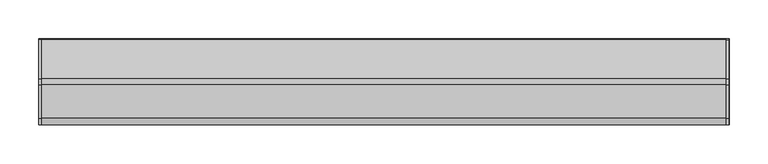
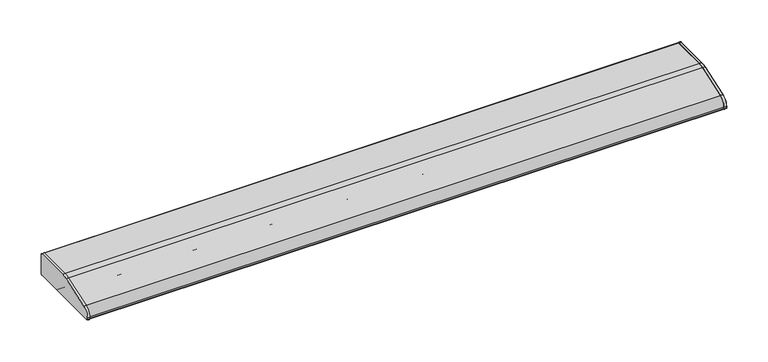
"""IFC4 building model written with IfcOpenShell, lengths in millimetres: light fixture geometry, HermanMiller_SupplementalProducts_G6136_UtilityTaskLight : AO Etho Canvas 42W."""

from ifc_helpers import new_model, si_unit, point, frame, frame_2d, origin, place, context, project, spatial, polyline, circle_curve, trimmed, segment, composite_curve, outline, extrude, source, transform, mapped, element, save


def light_fixture_601a4b46(model_context):
    return source(origin(), model_context, "Body", "SweptSolid", [
        extrude(outline(composite_curve([segment(polyline([(53.975, 1314.45), (-53.975, 1314.45)]), True, "CONTINUOUS"), segment(trimmed(circle_curve(frame_2d((-53.975, 1316.0375)), 1.5875), [point((-53.975, 1314.45))], [point((-55.5625, 1316.0375))], False, "CARTESIAN"), True, "CONTINUOUS"), segment(polyline([(-55.5625, 1316.0375), (-55.5625, 1318.0785714)]), True, "CONTINUOUS"), segment(trimmed(circle_curve(frame_2d((-42.8625, 1318.0785714)), 12.7), [point((-55.5625, 1318.0785714))], [point((-46.9814189, 1330.0920849))], False, "CARTESIAN"), True, "CONTINUOUS"), segment(polyline([(-46.9814189, 1330.0920849), (-4.0045045, 1344.827027)]), True, "CONTINUOUS"), segment(trimmed(circle_curve(frame_2d((4.2333333, 1320.8)), 25.4), [point((-4.0045045, 1344.827027))], [point((4.2333333, 1346.2))], False, "CARTESIAN"), True, "CONTINUOUS"), segment(polyline([(4.2333333, 1346.2), (53.975, 1346.2)]), True, "CONTINUOUS"), segment(trimmed(circle_curve(frame_2d((53.975, 1344.6125)), 1.5875), [point((53.975, 1346.2))], [point((55.5625, 1344.6125))], False, "CARTESIAN"), True, "CONTINUOUS"), segment(polyline([(55.5625, 1344.6125), (55.5625, 1316.0375)]), True, "CONTINUOUS"), segment(trimmed(circle_curve(frame_2d((53.975, 1316.0375)), 1.5875), [point((55.5625, 1316.0375))], [point((53.975, 1314.45))], False, "CARTESIAN"), True, "CONTINUOUS")], self_intersect=False)), frame((441.833, 0.0, 0.0), z_axis=(1.0, 0.0, 0.0), x_axis=(0.0, 1.0, 0.0)), (0.0, 0.0, 1.0), 3.175),
        extrude(outline(composite_curve([segment(trimmed(circle_curve(frame_2d((53.975, 1344.6125)), 1.5875), [point((53.975, 1346.2))], [point((55.5625, 1344.6125))], False, "CARTESIAN"), True, "CONTINUOUS"), segment(polyline([(55.5625, 1344.6125), (55.5625, 1316.0375)]), True, "CONTINUOUS"), segment(trimmed(circle_curve(frame_2d((53.975, 1316.0375)), 1.5875), [point((55.5625, 1316.0375))], [point((53.975, 1314.45))], False, "CARTESIAN"), True, "CONTINUOUS"), segment(polyline([(53.975, 1314.45), (-53.975, 1314.45)]), True, "CONTINUOUS"), segment(trimmed(circle_curve(frame_2d((-53.975, 1316.0375)), 1.5875), [point((-53.975, 1314.45))], [point((-55.5625, 1316.0375))], False, "CARTESIAN"), True, "CONTINUOUS"), segment(polyline([(-55.5625, 1316.0375), (-55.5625, 1318.0785714)]), True, "CONTINUOUS"), segment(trimmed(circle_curve(frame_2d((-42.8625, 1318.0785714)), 12.7), [point((-55.5625, 1318.0785714))], [point((-46.9814189, 1330.0920849))], False, "CARTESIAN"), True, "CONTINUOUS"), segment(polyline([(-46.9814189, 1330.0920849), (-4.0045045, 1344.827027)]), True, "CONTINUOUS"), segment(trimmed(circle_curve(frame_2d((4.2333333, 1320.8)), 25.4), [point((-4.0045045, 1344.827027))], [point((4.2333333, 1346.2))], False, "CARTESIAN"), True, "CONTINUOUS"), segment(polyline([(4.2333333, 1346.2), (53.975, 1346.2)]), True, "CONTINUOUS")], self_intersect=False)), frame((-445.008, 0.0, 0.0), z_axis=(1.0, 0.0, 0.0), x_axis=(0.0, 1.0, 0.0)), (0.0, 0.0, 1.0), 3.175),
        extrude(outline(composite_curve([segment(polyline([(55.5625, 1344.6125), (55.5625, 1316.0375)]), True, "CONTINUOUS"), segment(trimmed(circle_curve(frame_2d((53.975, 1316.0375)), 1.5875), [point((55.5625, 1316.0375))], [point((53.975, 1314.45))], False, "CARTESIAN"), True, "CONTINUOUS"), segment(polyline([(53.975, 1314.45), (19.05, 1314.45)]), True, "CONTINUOUS"), segment(trimmed(circle_curve(frame_2d((19.05, 1316.0375)), 1.5875), [point((19.05, 1314.45))], [point((17.4625, 1316.0375))], False, "CARTESIAN"), True, "CONTINUOUS"), segment(polyline([(17.4625, 1316.0375), (17.4625, 1344.6125), (4.4979167, 1344.6125)]), True, "CONTINUOUS"), segment(trimmed(circle_curve(frame_2d((4.4979167, 1319.2125)), 25.4), [point((4.4979167, 1344.6125))], [point((-3.7399212, 1343.239527))], True, "CARTESIAN"), True, "CONTINUOUS"), segment(polyline([(-3.7399212, 1343.239527), (-37.4564189, 1331.6795849)]), True, "CONTINUOUS"), segment(trimmed(circle_curve(frame_2d((-33.3375, 1319.6660714)), 12.7), [point((-37.4564189, 1331.6795849))], [point((-46.0375, 1319.6660714))], True, "CARTESIAN"), True, "CONTINUOUS"), segment(polyline([(-46.0375, 1319.6660714), (-46.0375, 1316.0375)]), True, "CONTINUOUS"), segment(trimmed(circle_curve(frame_2d((-47.625, 1316.0375)), 1.5875), [point((-46.0375, 1316.0375))], [point((-47.625, 1314.45))], False, "CARTESIAN"), True, "CONTINUOUS"), segment(polyline([(-47.625, 1314.45), (-53.975, 1314.45)]), True, "CONTINUOUS"), segment(trimmed(circle_curve(frame_2d((-53.975, 1316.0375)), 1.5875), [point((-53.975, 1314.45))], [point((-55.5625, 1316.0375))], False, "CARTESIAN"), True, "CONTINUOUS"), segment(polyline([(-55.5625, 1316.0375), (-55.5625, 1318.0785714)]), True, "CONTINUOUS"), segment(trimmed(circle_curve(frame_2d((-42.8625, 1318.0785714)), 12.7), [point((-55.5625, 1318.0785714))], [point((-46.9814189, 1330.0920849))], False, "CARTESIAN"), True, "CONTINUOUS"), segment(polyline([(-46.9814189, 1330.0920849), (-4.0045045, 1344.827027)]), True, "CONTINUOUS"), segment(trimmed(circle_curve(frame_2d((4.2333333, 1320.8)), 25.4), [point((-4.0045045, 1344.827027))], [point((4.2333333, 1346.2))], False, "CARTESIAN"), True, "CONTINUOUS"), segment(polyline([(4.2333333, 1346.2), (53.975, 1346.2)]), True, "CONTINUOUS"), segment(trimmed(circle_curve(frame_2d((53.975, 1344.6125)), 1.5875), [point((53.975, 1346.2))], [point((55.5625, 1344.6125))], False, "CARTESIAN"), True, "CONTINUOUS")], self_intersect=False)), frame((-445.008, 0.0, 0.0), z_axis=(1.0, 0.0, 0.0), x_axis=(0.0, 1.0, 0.0)), (0.0, 0.0, 1.0), 890.4820011),
        extrude(outline(composite_curve([segment(trimmed(circle_curve(frame_2d((1.5875, 1331.9125)), 9.525), [point((-7.9375, 1331.9125))], [point((11.1125, 1331.9125))], False, "CARTESIAN"), True, "CONTINUOUS"), segment(trimmed(circle_curve(frame_2d((1.5875, 1331.9125)), 9.525), [point((11.1125, 1331.9125))], [point((-7.9375, 1331.9125))], False, "CARTESIAN"), True, "CONTINUOUS")], self_intersect=False)), frame((419.608, 0.0, 0.0), z_axis=(1.0, 0.0, 0.0), x_axis=(0.0, 1.0, 0.0)), (0.0, 0.0, 1.0), 12.7),
        extrude(outline(composite_curve([segment(trimmed(circle_curve(frame_2d((1.5875, 1331.9125)), 9.525), [point((-7.9375, 1331.9125))], [point((11.1125, 1331.9125))], False, "CARTESIAN"), True, "CONTINUOUS"), segment(trimmed(circle_curve(frame_2d((1.5875, 1331.9125)), 9.525), [point((11.1125, 1331.9125))], [point((-7.9375, 1331.9125))], False, "CARTESIAN"), True, "CONTINUOUS")], self_intersect=False)), frame((-432.308, 0.0, 0.0), z_axis=(1.0, 0.0, 0.0), x_axis=(0.0, 1.0, 0.0)), (0.0, 0.0, 1.0), 12.7),
        extrude(outline(composite_curve([segment(trimmed(circle_curve(frame_2d((1.5875, 1331.9125)), 9.525), [point((-7.9375, 1331.9125))], [point((11.1125, 1331.9125))], False, "CARTESIAN"), True, "CONTINUOUS"), segment(trimmed(circle_curve(frame_2d((1.5875, 1331.9125)), 9.525), [point((11.1125, 1331.9125))], [point((-7.9375, 1331.9125))], False, "CARTESIAN"), True, "CONTINUOUS")], self_intersect=False)), frame((-419.608, 0.0, 0.0), z_axis=(1.0, 0.0, 0.0), x_axis=(0.0, 1.0, 0.0)), (0.0, 0.0, 1.0), 839.216),
        extrude(outline(composite_curve([segment(polyline([(17.4625, 1317.625), (-46.0375, 1317.625), (-46.0375, 1319.6660714)]), True, "CONTINUOUS"), segment(trimmed(circle_curve(frame_2d((-33.3375, 1319.6660714)), 12.7), [point((-46.0375, 1319.6660714))], [point((-37.4564189, 1331.6795849))], False, "CARTESIAN"), True, "CONTINUOUS"), segment(polyline([(-37.4564189, 1331.6795849), (-3.7399212, 1343.239527)]), True, "CONTINUOUS"), segment(trimmed(circle_curve(frame_2d((4.4979167, 1319.2125)), 25.4), [point((-3.7399212, 1343.239527))], [point((4.4979167, 1344.6125))], False, "CARTESIAN"), True, "CONTINUOUS"), segment(polyline([(4.4979167, 1344.6125), (17.4625, 1344.6125), (17.4625, 1317.625)]), True, "CONTINUOUS")], self_intersect=False)), frame((432.308, 0.0, 0.0), z_axis=(1.0, 0.0, 0.0), x_axis=(0.0, 1.0, 0.0)), (0.0, 0.0, 1.0), 9.525),
        extrude(outline(composite_curve([segment(polyline([(17.4625, 1317.625), (-46.0375, 1317.625), (-46.0375, 1319.6660714)]), True, "CONTINUOUS"), segment(trimmed(circle_curve(frame_2d((-33.3375, 1319.6660714)), 12.7), [point((-46.0375, 1319.6660714))], [point((-37.4564189, 1331.6795849))], False, "CARTESIAN"), True, "CONTINUOUS"), segment(polyline([(-37.4564189, 1331.6795849), (-3.7399212, 1343.239527)]), True, "CONTINUOUS"), segment(trimmed(circle_curve(frame_2d((4.4979167, 1319.2125)), 25.4), [point((-3.7399212, 1343.239527))], [point((4.4979167, 1344.6125))], False, "CARTESIAN"), True, "CONTINUOUS"), segment(polyline([(4.4979167, 1344.6125), (17.4625, 1344.6125), (17.4625, 1317.625)]), True, "CONTINUOUS")], self_intersect=False)), frame((-441.833, 0.0, 0.0), z_axis=(1.0, 0.0, 0.0), x_axis=(0.0, 1.0, 0.0)), (0.0, 0.0, 1.0), 9.525),
    ])


if __name__ == "__main__":
    model = new_model("IFC4")
    model_context = context("Model", 3, world=origin())
    ifc_project = project(units=[si_unit("LENGTHUNIT", "METRE", prefix="MILLI")], contexts=[model_context])
    site = spatial("IfcSite", under=ifc_project)
    building = spatial("IfcBuilding", under=site)
    placement = place(None, origin())
    light_fixture_shape = light_fixture_601a4b46(model_context)
    element("IfcLightFixture", 1, ObjectType="HermanMiller_SupplementalProducts_G6136_UtilityTaskLight : AO Etho Canvas 42W", at=placement, inside=building, context=model_context, shape_type="MappedRepresentation", body=[
        mapped(light_fixture_shape, transform((0.0, 0.0, 0.0), x_axis=(1.0, 0.0, 0.0), y_axis=(0.0, 1.0, 0.0), z_axis=(0.0, 0.0, 1.0))),
    ])
    save(model, "model.ifc")
